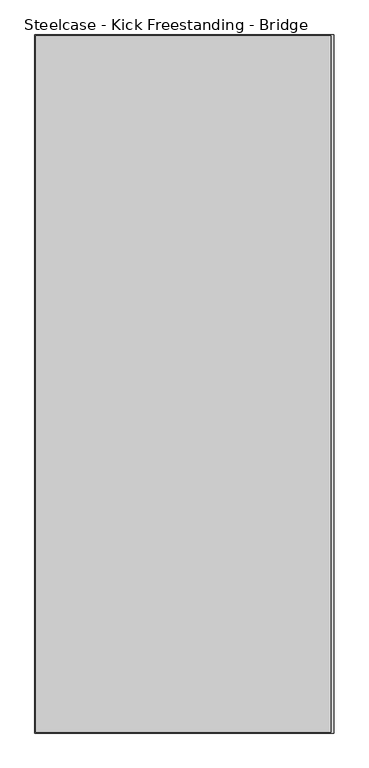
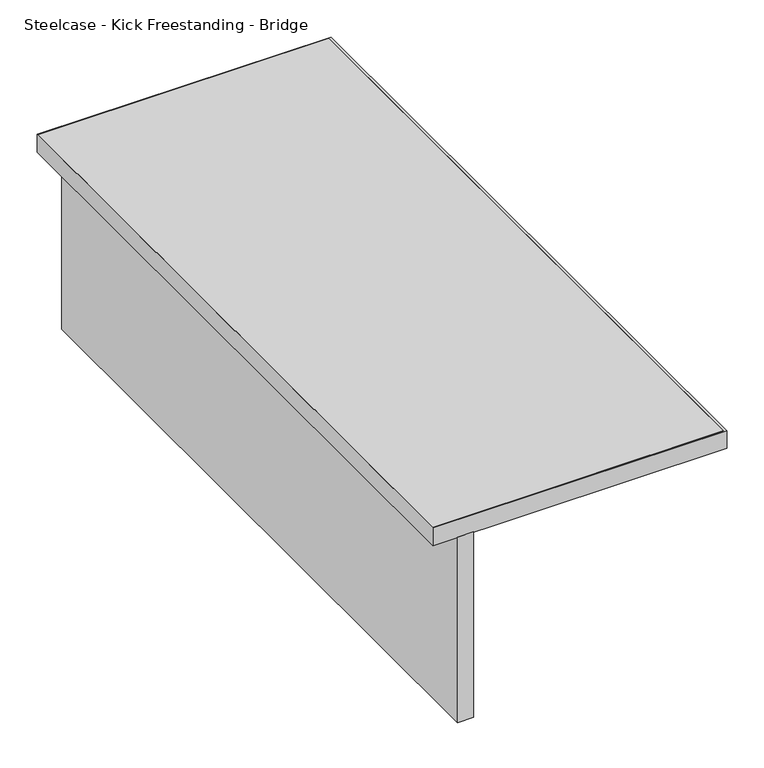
"""IFC4 building model written with IfcOpenShell, lengths in millimetres: furniture geometry, Steelcase - Kick Freestanding - Bridge : 18D x 42W - Half Panel."""

from ifc_helpers import new_model, si_unit, frame, origin, place, context, project, spatial, polyline, outline, extrude, source, transform, mapped, element, save


def steelcase_kick_freestanding_bridge_089a9ec7(model_context):
    return source(origin(), model_context, "Body", "SweptSolid", [
        extrude(outline(polyline([(2201.9594425, -1613.6145152), (2201.9594425, -546.8145152), (2227.3594425, -546.8145152), (2227.3594425, -1613.6145152), (2201.9594425, -1613.6145152)])), frame((0.0, 0.0, 377.444), z_axis=(0.0, 0.0, 1.0), x_axis=(1.0, 0.0, 0.0)), (0.0, 0.0, 1.0), 304.8),
        extrude(outline(polyline([(2616.8176592, -548.0845152), (2616.8176592, -1612.3445152), (2164.8500425, -1612.3445152), (2164.8500425, -548.0845152), (2616.8176592, -548.0845152)])), frame((0.0, 0.0, 682.244), z_axis=(0.0, 0.0, 1.0), x_axis=(1.0, 0.0, 0.0)), (0.0, 0.0, 1.0), 28.956),
        extrude(outline(polyline([(2621.0594425, -546.8145152), (2621.0594425, -1613.6145152), (2163.8594425, -1613.6145152), (2163.8594425, -546.8145152), (2621.0594425, -546.8145152)]), holes=[polyline([(2616.8176592, -548.0845152), (2164.8500425, -548.0845152), (2164.8500425, -1612.3445152), (2616.8176592, -1612.3445152), (2616.8176592, -548.0845152)])]), frame((0.0, 0.0, 682.244), z_axis=(0.0, 0.0, 1.0), x_axis=(1.0, 0.0, 0.0)), (0.0, 0.0, 1.0), 28.956),
    ])


if __name__ == "__main__":
    model = new_model("IFC4")
    model_context = context("Model", 3, world=origin())
    ifc_project = project(units=[si_unit("LENGTHUNIT", "METRE", prefix="MILLI")], contexts=[model_context])
    site = spatial("IfcSite", under=ifc_project)
    building = spatial("IfcBuilding", under=site)
    placement = place(None, origin())
    steelcase_kick_freestanding_bridge_shape = steelcase_kick_freestanding_bridge_089a9ec7(model_context)
    element("IfcFurniture", 1, ObjectType="Steelcase - Kick Freestanding - Bridge : 18D x 42W - Half Panel", at=placement, inside=building, context=model_context, shape_type="MappedRepresentation", body=[
        mapped(steelcase_kick_freestanding_bridge_shape, transform((0.0, 0.0, 0.0), x_axis=(1.0, 0.0, 0.0), y_axis=(0.0, 1.0, 0.0), z_axis=(0.0, 0.0, 1.0))),
    ])
    save(model, "model.ifc")
